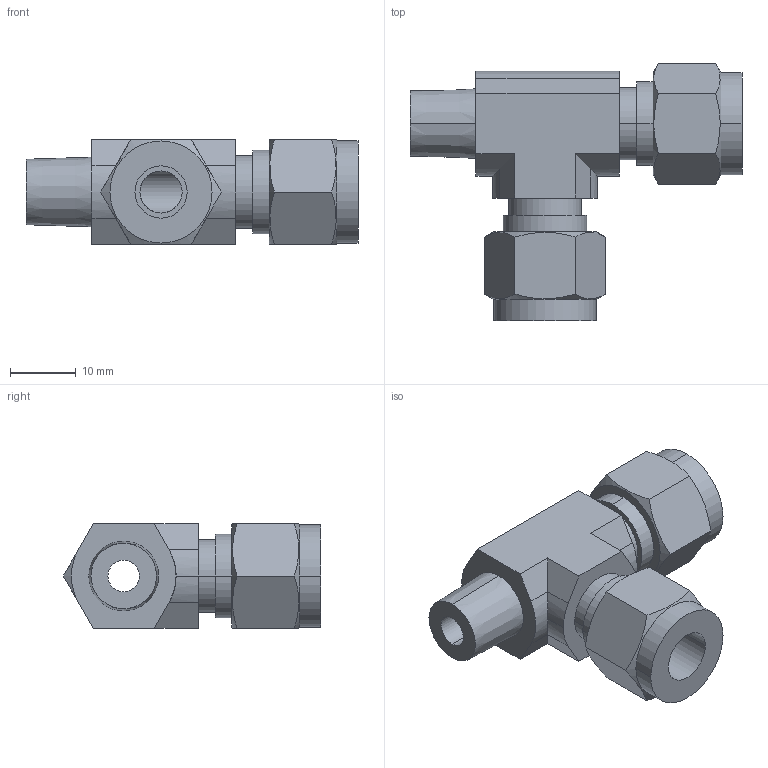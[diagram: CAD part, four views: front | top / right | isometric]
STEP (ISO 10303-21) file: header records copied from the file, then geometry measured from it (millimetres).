
FILE_DESCRIPTION (( 'STEP AP203' ), '1' );
FILE_NAME ('DTK 05-02 SS.STEP', '2009-09-08T10:03:08', ( ' ' ), ( '' ), 'SwSTEP 2.0', 'SolidWorks 2008', '' );
FILE_SCHEMA (( 'CONFIG_CONTROL_DESIGN' ));
Length unit declared in the file: millimetre
Products named in the file (1): DTK 05-02 SS
Bounding box: 50.4 x 39.07 x 15.9 mm (x, y, z)
Volume: 10366.5 mm3; surface area: 5963.1 mm2
Topology: 1 solids, 1 shells, 77 faces, 189 edges, 122 vertices
Faces by surface type: plane 36, cylinder 29, cone 12
Entity records: 2543 total; most frequent: CARTESIAN_POINT 666, ORIENTED_EDGE 378, DIRECTION 365, EDGE_CURVE 189, AXIS2_PLACEMENT_3D 137, VERTEX_POINT 122, VECTOR 91, LINE 91
